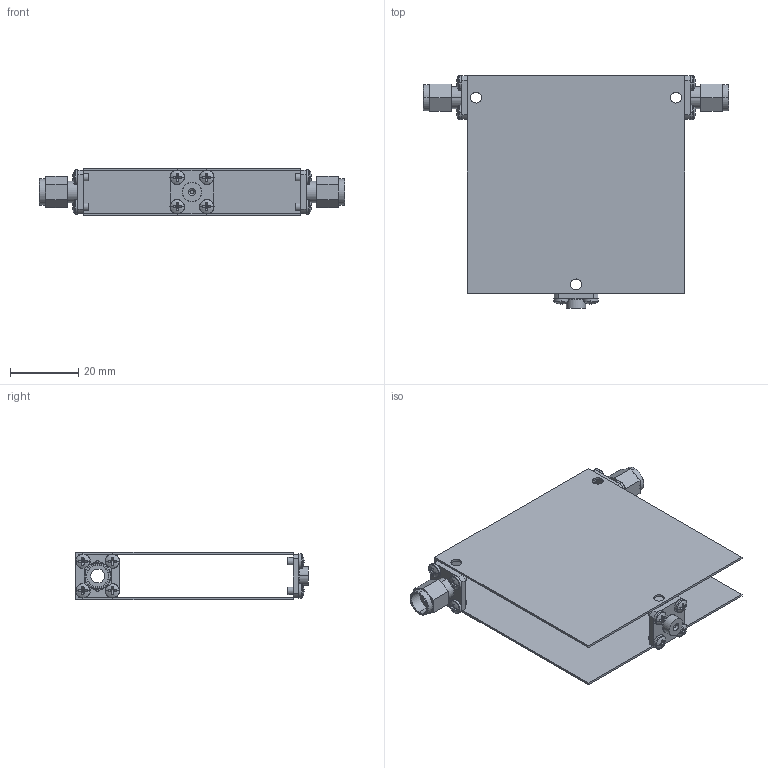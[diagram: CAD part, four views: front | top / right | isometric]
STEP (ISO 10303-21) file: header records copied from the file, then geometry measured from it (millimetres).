
FILE_DESCRIPTION (( 'STEP AP214' ), '1' );
FILE_NAME ('D3I1525-3 2.5x2.5x0.55 MM.step', '2021-12-01T20:55:52', ( '' ), ( '' ), 'SwSTEP 2.0', 'SolidWorks 2016', '' );
FILE_SCHEMA (( 'AUTOMOTIVE_DESIGN' ));
Length unit declared in the file: inch
Products named in the file (5): D3I1525 2.5x2.5x0.55; pan cross head_ai_CR-PHMS 0.086-56x0.125x0.125-N; D3I1525-3 2.5x2.5x0.55 MM; 030013-1A Same Base thickness as connectors; Delta SMA-Male
Assembly tree (16 placements, depth 2):
  D3I1525-3 2.5x2.5x0.55 MM
    D3I1525 2.5x2.5x0.55
    030013-1A Same Base thickness as connectors
    pan cross head_ai_CR-PHMS 0.086-56x0.125x0.125-N  x12
    Delta SMA-Male  x2
Bounding box: 89.26 x 68.03 x 13.97 mm (x, y, z)
Volume: 7247.7 mm3; surface area: 21027.9 mm2
Topology: 16 solids, 16 shells, 424 faces, 968 edges, 596 vertices
Faces by surface type: plane 240, cylinder 118, torus 38, sphere 24, cone 4
Entity records: 4082 total; most frequent: DIRECTION 748, CARTESIAN_POINT 641, ORIENTED_EDGE 608, EDGE_CURVE 304, AXIS2_PLACEMENT_3D 301, VERTEX_POINT 194, EDGE_LOOP 162, CIRCLE 158
